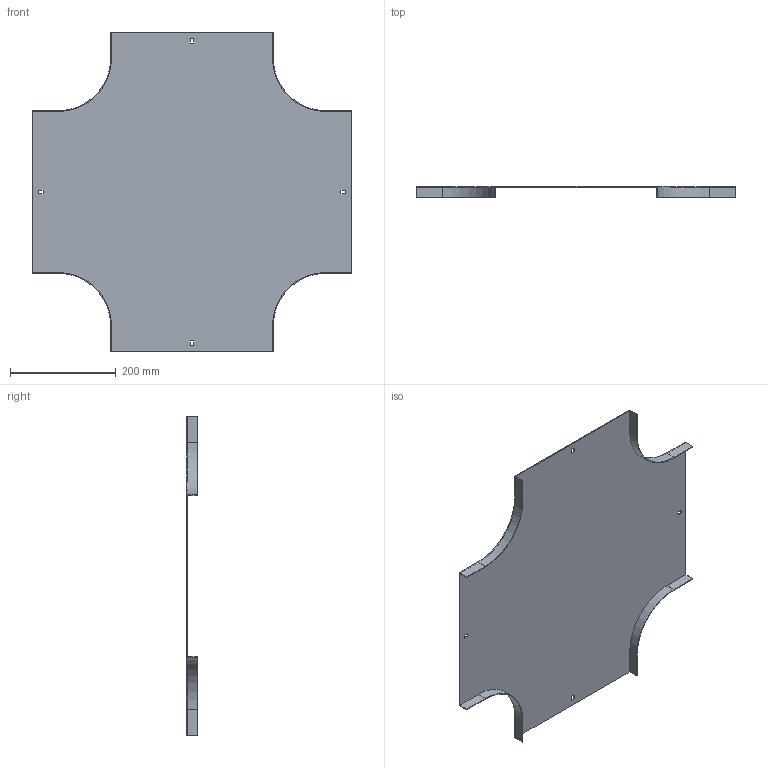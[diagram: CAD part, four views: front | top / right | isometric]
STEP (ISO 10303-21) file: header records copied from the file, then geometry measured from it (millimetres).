
FILE_DESCRIPTION (( 'STEP AP214' ), '1' );
FILE_NAME ('17N1R300.step', '2025-02-21T09:52:52', ( '' ), ( '' ), 'SwSTEP 2.0', 'SolidWorks 2023', '' );
FILE_SCHEMA (( 'AUTOMOTIVE_DESIGN' ));
Length unit declared in the file: millimetre
Products named in the file (1): 17N1R300
Bounding box: 604 x 20 x 604 mm (x, y, z)
Volume: 455457.3 mm3; surface area: 611054.7 mm2
Topology: 1 solids, 1 shells, 50 faces, 144 edges, 96 vertices
Faces by surface type: plane 42, cylinder 8
Entity records: 1663 total; most frequent: CARTESIAN_POINT 291, ORIENTED_EDGE 288, DIRECTION 262, EDGE_CURVE 144, LINE 128, VECTOR 128, VERTEX_POINT 96, AXIS2_PLACEMENT_3D 67
